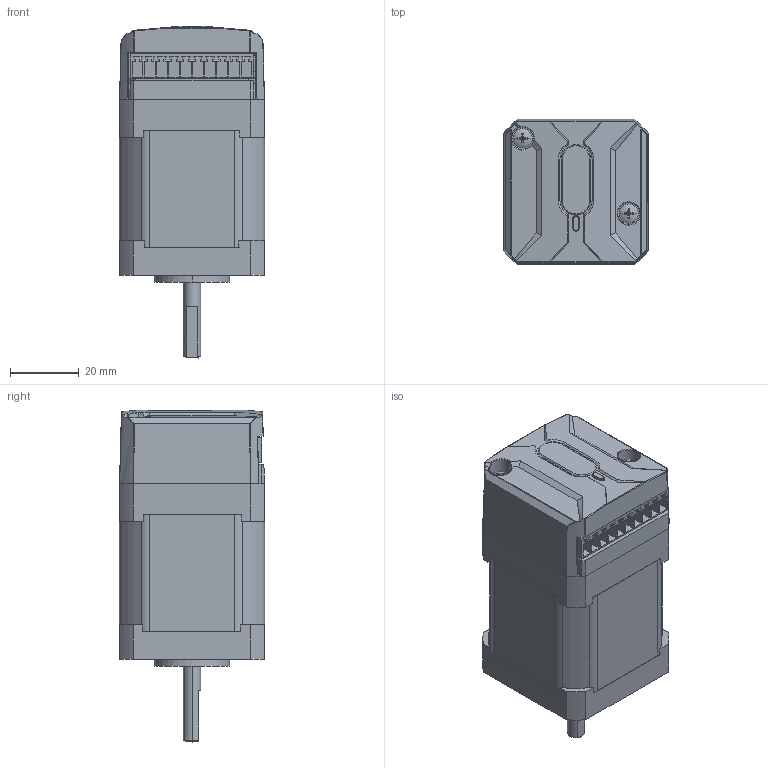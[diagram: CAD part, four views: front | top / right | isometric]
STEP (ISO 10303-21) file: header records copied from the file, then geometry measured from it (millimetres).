
FILE_DESCRIPTION((''),'2;1');
FILE_NAME('ASMICL42_ASM','2022-12-22T11:33:29',('Administrator'),(''),'CREO PARAMETRIC BY PTC INC, 2019224','CREO PARAMETRIC BY PTC INC, 2019224','');
FILE_SCHEMA(('CONFIG_CONTROL_DESIGN','GEOMETRIC_VALIDATION_PROPERTIES_MIM'));
Products named in the file (18): ______-3-26080; ____-3-4; __-3; ____-3-6; ______-3-10547; 42DJ_ASM; BREP_3_SOLID_1; BREP_3_SOLID_2; BREP_2; HEADER_2_0_4X; 1_27CB; PCB_CL42_ASM; SLZJ1; AL; DZ2; SLZJ2; XX; ASMICL42_ASM
Assembly tree (21 placements, depth 3):
  ASMICL42_ASM
    42DJ_ASM
      ______-3-26080
      ____-3-4
      __-3
      ____-3-6  x3
      ______-3-10547
    PCB_CL42_ASM
      BREP_3_SOLID_1
      BREP_3_SOLID_2
      BREP_2
      HEADER_2_0_4X
      1_27CB
    SLZJ1
    AL
    ____-3-6  x2
    DZ2
    SLZJ2
    XX
Bounding box: 42.13 x 42.13 x 96.31 mm (x, y, z)
Volume: 79027.9 mm3; surface area: 53663 mm2
Topology: 20 solids, 20 shells, 2898 faces, 6885 edges, 4075 vertices
Faces by surface type: cone 1678, plane 777, cylinder 313, bspline 87, sphere 24, torus 19
Entity records: 63066 total; most frequent: CARTESIAN_POINT 11787, ORIENTED_EDGE 7546, DIRECTION 7498, PRESENTATION_STYLE_ASSIGNMENT 3888, EDGE_CURVE 3773, STYLED_ITEM 3266, CURVE_STYLE 3251, AXIS2_PLACEMENT_3D 2531
